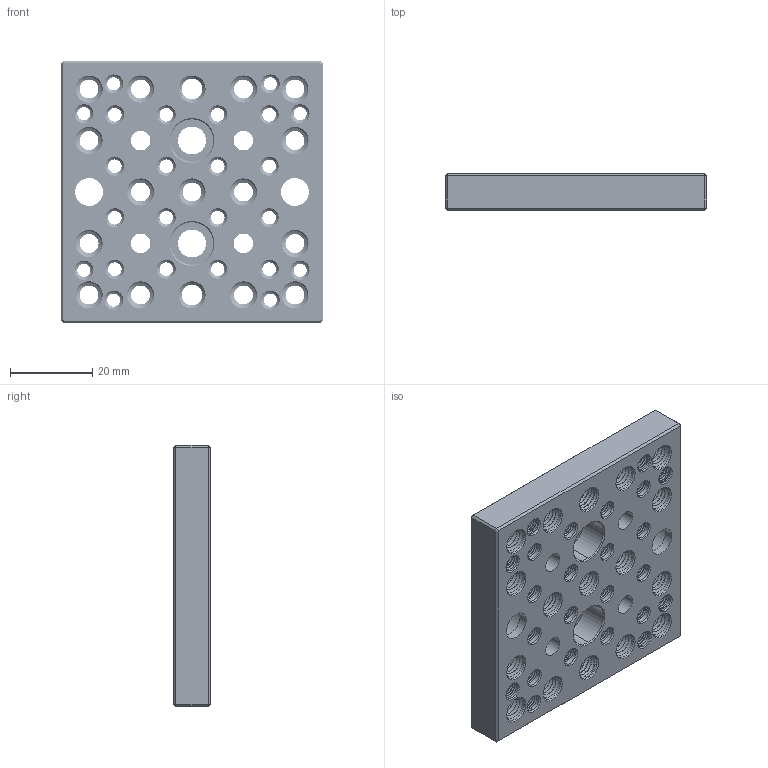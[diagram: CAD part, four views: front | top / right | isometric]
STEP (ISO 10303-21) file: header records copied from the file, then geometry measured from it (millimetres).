
FILE_DESCRIPTION((''),'2;1');
FILE_NAME('OPS-M406_2','2021-03-25T',('Administrator'),(''),'CREO PARAMETRIC BY PTC INC, 2015290','CREO PARAMETRIC BY PTC INC, 2015290','');
FILE_SCHEMA(('CONFIG_CONTROL_DESIGN'));
Products named in the file (1): OPS-M406_2
Bounding box: 63.5 x 9 x 63.5 mm (x, y, z)
Volume: 26142 mm3; surface area: 17594.7 mm2
Topology: 1 solids, 1 shells, 1395 faces, 3807 edges, 2422 vertices
Faces by surface type: cylinder 801, bspline 376, cone 180, plane 38
Entity records: 100646 total; most frequent: CARTESIAN_POINT 70119, ORIENTED_EDGE 7614, DIRECTION 4232, EDGE_CURVE 3807, VERTEX_POINT 2422, B_SPLINE_CURVE_WITH_KNOTS 2019, EDGE_LOOP 1501, AXIS2_PLACEMENT_3D 1425
